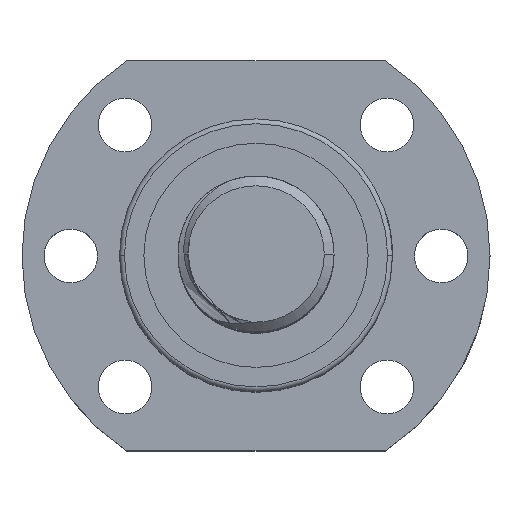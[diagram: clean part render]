
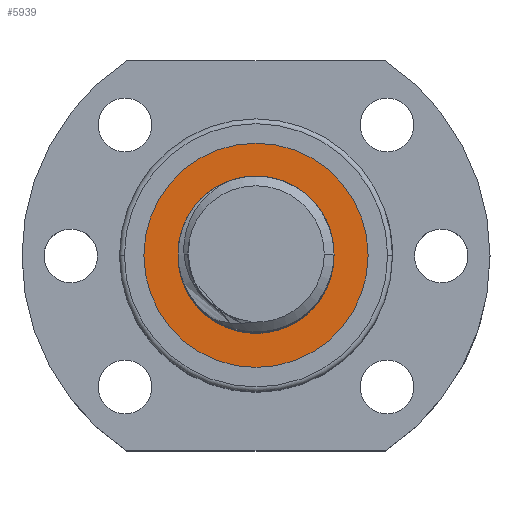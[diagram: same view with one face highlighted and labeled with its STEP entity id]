
A CAD part, top view. The second image highlights one B-rep face of the part: STEP entity #5939.
In plain terms, the highlighted planar face has unit normal (0, 0, 1) as drawn and (0, 1, 0) by its records, which use the part's own axes.
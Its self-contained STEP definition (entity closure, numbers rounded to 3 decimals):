
#72 = CARTESIAN_POINT ( 'NONE',  ( 0., 22.5, 0. ) ) ;
#686 = AXIS2_PLACEMENT_3D ( 'NONE', #72, #5081, #11609 ) ;
#1524 = ORIENTED_EDGE ( 'NONE', *, *, #9468, .T. ) ;
#1832 = CARTESIAN_POINT ( 'NONE',  ( 0., 22.5, -8. ) ) ;
#2111 = EDGE_LOOP ( 'NONE', ( #3797, #1524 ) ) ;
#3483 = EDGE_CURVE ( 'NONE', #18478, #23472, #4998, .T. ) ;
#3797 = ORIENTED_EDGE ( 'NONE', *, *, #18525, .T. ) ;
#4069 = CIRCLE ( 'NONE', #686, 8. ) ;
#4628 = CARTESIAN_POINT ( 'NONE',  ( 0., 22.5, 8. ) ) ;
#4998 = CIRCLE ( 'NONE', #29732, 11.5 ) ;
#5081 = DIRECTION ( 'NONE',  ( 0., -1., 0. ) ) ;
#5939 = ADVANCED_FACE ( 'NONE', ( #21161, #23133 ), #13597, .T. ) ;
#7227 = DIRECTION ( 'NONE',  ( 0., 1., 0. ) ) ;
#7681 = DIRECTION ( 'NONE',  ( 1., 0., 0. ) ) ;
#7973 = DIRECTION ( 'NONE',  ( 0., -1., 0. ) ) ;
#7987 = AXIS2_PLACEMENT_3D ( 'NONE', #21827, #23796, #12441 ) ;
#9468 = EDGE_CURVE ( 'NONE', #13399, #20503, #4069, .T. ) ;
#10402 = CIRCLE ( 'NONE', #19118, 8. ) ;
#10933 = ORIENTED_EDGE ( 'NONE', *, *, #3483, .T. ) ;
#11609 = DIRECTION ( 'NONE',  ( 1., 0., 0. ) ) ;
#11624 = CARTESIAN_POINT ( 'NONE',  ( 0., 22.5, 0. ) ) ;
#11662 = CARTESIAN_POINT ( 'NONE',  ( 0., 22.5, 0. ) ) ;
#12363 = CIRCLE ( 'NONE', #7987, 11.5 ) ;
#12441 = DIRECTION ( 'NONE',  ( 1., 0., 0. ) ) ;
#13399 = VERTEX_POINT ( 'NONE', #4628 ) ;
#13597 = PLANE ( 'NONE',  #13742 ) ;
#13742 = AXIS2_PLACEMENT_3D ( 'NONE', #11624, #7227, #16027 ) ;
#14468 = EDGE_CURVE ( 'NONE', #23472, #18478, #12363, .T. ) ;
#14735 = EDGE_LOOP ( 'NONE', ( #21527, #10933 ) ) ;
#14896 = CARTESIAN_POINT ( 'NONE',  ( 0., 22.5, -11.5 ) ) ;
#16027 = DIRECTION ( 'NONE',  ( 1., 0., 0. ) ) ;
#18478 = VERTEX_POINT ( 'NONE', #19533 ) ;
#18525 = EDGE_CURVE ( 'NONE', #20503, #13399, #10402, .T. ) ;
#19118 = AXIS2_PLACEMENT_3D ( 'NONE', #24045, #7973, #7681 ) ;
#19533 = CARTESIAN_POINT ( 'NONE',  ( 0., 22.5, 11.5 ) ) ;
#20503 = VERTEX_POINT ( 'NONE', #1832 ) ;
#20613 = DIRECTION ( 'NONE',  ( 0., 1., 0. ) ) ;
#21161 = FACE_OUTER_BOUND ( 'NONE', #14735, .T. ) ;
#21527 = ORIENTED_EDGE ( 'NONE', *, *, #14468, .T. ) ;
#21827 = CARTESIAN_POINT ( 'NONE',  ( 0., 22.5, 0. ) ) ;
#23133 = FACE_BOUND ( 'NONE', #2111, .T. ) ;
#23472 = VERTEX_POINT ( 'NONE', #14896 ) ;
#23796 = DIRECTION ( 'NONE',  ( 0., 1., 0. ) ) ;
#24045 = CARTESIAN_POINT ( 'NONE',  ( 0., 22.5, 0. ) ) ;
#28019 = DIRECTION ( 'NONE',  ( 1., 0., 0. ) ) ;
#29732 = AXIS2_PLACEMENT_3D ( 'NONE', #11662, #20613, #28019 ) ;
